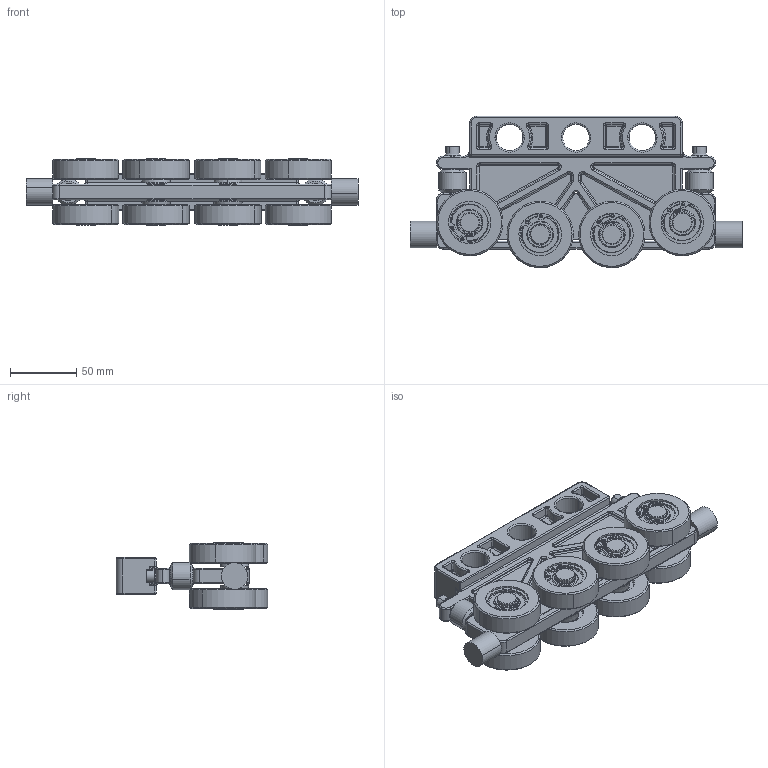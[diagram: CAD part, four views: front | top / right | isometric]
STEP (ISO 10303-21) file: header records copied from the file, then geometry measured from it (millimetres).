
FILE_DESCRIPTION (( 'STEP AP203' ), '1' );
FILE_NAME ('900.200.101.STEP', '2016-05-24T07:53:36', ( '' ), ( '' ), 'SwSTEP 2.0', 'SolidWorks 2016', '' );
FILE_SCHEMA (( 'CONFIG_CONTROL_DESIGN' ));
Length unit declared in the file: millimetre
Products named in the file (1): 900.200.101
Bounding box: 250 x 114 x 50 mm (x, y, z)
Surface area: 129186.2 mm2 (no closed solid volume)
Topology: 0 solids, 66 shells, 1215 faces, 3207 edges, 2062 vertices
Faces by surface type: cylinder 503, bspline 330, plane 242, cone 140
Entity records: 53258 total; most frequent: CARTESIAN_POINT 25026, DIRECTION 5854, ORIENTED_EDGE 5536, EDGE_CURVE 3195, AXIS2_PLACEMENT_3D 2380, VERTEX_POINT 2062, CIRCLE 1494, EDGE_LOOP 1351
